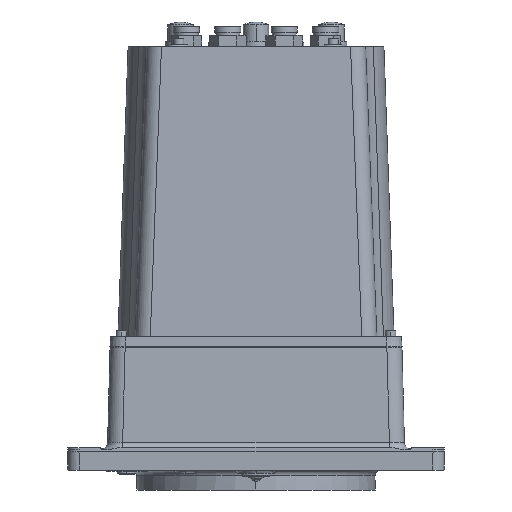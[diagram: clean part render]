
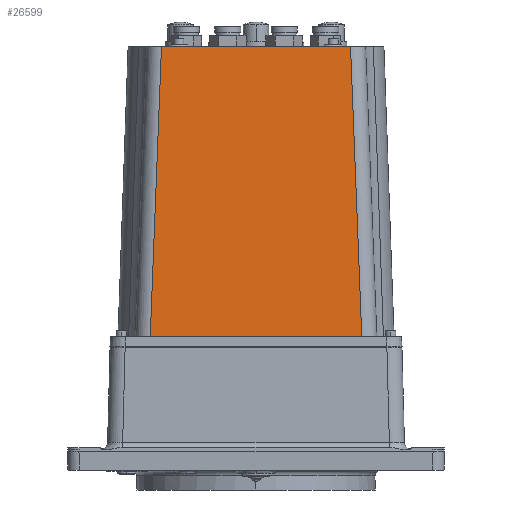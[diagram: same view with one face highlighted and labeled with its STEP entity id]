
A CAD part, left-side view. The second image highlights one B-rep face of the part: STEP entity #26599.
In plain terms, the highlighted planar face has unit normal (-0.999, 0, 0.035).
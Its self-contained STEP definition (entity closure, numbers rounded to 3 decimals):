
#661 = LINE ( 'NONE', #727, #1848 ) ;
#727 = CARTESIAN_POINT ( 'NONE',  ( -122.415, -100., 213. ) ) ;
#840 = VECTOR ( 'NONE', #46819, 1000. ) ;
#1848 = VECTOR ( 'NONE', #26577, 1000. ) ;
#2923 = VERTEX_POINT ( 'NONE', #46321 ) ;
#6819 = EDGE_CURVE ( 'NONE', #32020, #30119, #38217, .T. ) ;
#7060 = CARTESIAN_POINT ( 'NONE',  ( -127.792, -56.167, 59. ) ) ;
#8831 = CARTESIAN_POINT ( 'NONE',  ( -122.415, 50.194, 213. ) ) ;
#9192 = VECTOR ( 'NONE', #39323, 1000. ) ;
#10162 = EDGE_LOOP ( 'NONE', ( #26340, #47546, #21402, #13961 ) ) ;
#10282 = CARTESIAN_POINT ( 'NONE',  ( -127.792, 56.167, 59. ) ) ;
#10301 = CARTESIAN_POINT ( 'NONE',  ( -127.792, 0., 59. ) ) ;
#10392 = EDGE_CURVE ( 'NONE', #30119, #35221, #46560, .T. ) ;
#13360 = EDGE_CURVE ( 'NONE', #32020, #2923, #19073, .T. ) ;
#13961 = ORIENTED_EDGE ( 'NONE', *, *, #6819, .F. ) ;
#17989 = FACE_OUTER_BOUND ( 'NONE', #10162, .T. ) ;
#18725 = AXIS2_PLACEMENT_3D ( 'NONE', #25033, #43103, #32315 ) ;
#19073 = LINE ( 'NONE', #39479, #9192 ) ;
#21402 = ORIENTED_EDGE ( 'NONE', *, *, #10392, .F. ) ;
#25033 = CARTESIAN_POINT ( 'NONE',  ( -127.998, -100., 53.105 ) ) ;
#26340 = ORIENTED_EDGE ( 'NONE', *, *, #13360, .T. ) ;
#26577 = DIRECTION ( 'NONE',  ( 0., 1., 0. ) ) ;
#26599 = ADVANCED_FACE ( 'NONE', ( #17989 ), #28682, .T. ) ;
#28682 = PLANE ( 'NONE',  #18725 ) ;
#30119 = VERTEX_POINT ( 'NONE', #10282 ) ;
#32020 = VERTEX_POINT ( 'NONE', #7060 ) ;
#32315 = DIRECTION ( 'NONE',  ( 0.035, 0., 0.999 ) ) ;
#35221 = VERTEX_POINT ( 'NONE', #8831 ) ;
#36829 = CARTESIAN_POINT ( 'NONE',  ( -127.829, 56.208, 57.935 ) ) ;
#36885 = VECTOR ( 'NONE', #40493, 1000. ) ;
#38217 = LINE ( 'NONE', #10301, #840 ) ;
#39323 = DIRECTION ( 'NONE',  ( 0.035, 0.039, 0.999 ) ) ;
#39479 = CARTESIAN_POINT ( 'NONE',  ( -127.792, -56.167, 59. ) ) ;
#40493 = DIRECTION ( 'NONE',  ( 0.035, -0.039, 0.999 ) ) ;
#43103 = DIRECTION ( 'NONE',  ( -0.999, 0., 0.035 ) ) ;
#44468 = EDGE_CURVE ( 'NONE', #2923, #35221, #661, .T. ) ;
#46321 = CARTESIAN_POINT ( 'NONE',  ( -122.415, -50.194, 213. ) ) ;
#46560 = LINE ( 'NONE', #36829, #36885 ) ;
#46819 = DIRECTION ( 'NONE',  ( 0., 1., 0. ) ) ;
#47546 = ORIENTED_EDGE ( 'NONE', *, *, #44468, .T. ) ;
